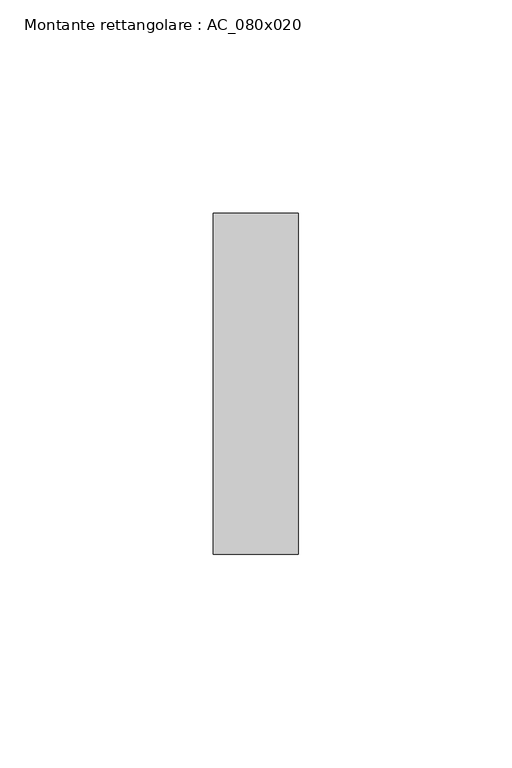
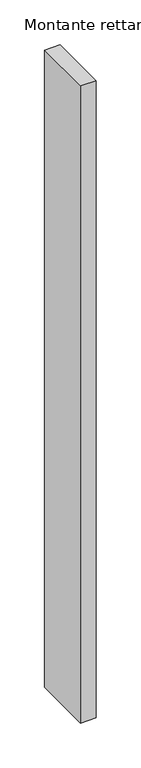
"""IFC4 building model written with IfcOpenShell, lengths in millimetres: member geometry, Montante rettangolare : AC_080x020."""

from ifc_helpers import new_model, si_unit, frame, origin, place, context, project, spatial, polyline, outline, extrude, source, transform, mapped, element, save


def montante_rettangolare_ac_080x020_d9112aa1(model_context):
    return source(origin(), model_context, "Body", "SweptSolid", [
        extrude(outline(polyline([(0.0, 40.0), (0.0, -40.0), (-20.0, -40.0), (-20.0, 40.0), (0.0, 40.0)])), frame((0.0, 0.0, -866.0), z_axis=(0.0, 0.0, 1.0), x_axis=(1.0, 0.0, 0.0)), (0.0, 0.0, 1.0), 866.0),
    ])


if __name__ == "__main__":
    model = new_model("IFC4")
    model_context = context("Model", 3, world=origin())
    ifc_project = project(units=[si_unit("LENGTHUNIT", "METRE", prefix="MILLI")], contexts=[model_context])
    site = spatial("IfcSite", under=ifc_project)
    building = spatial("IfcBuilding", under=site)
    placement = place(None, origin())
    montante_rettangolare_ac_080x020_shape = montante_rettangolare_ac_080x020_d9112aa1(model_context)
    element("IfcMember", 1, ObjectType="Montante rettangolare : AC_080x020", at=placement, inside=building, context=model_context, shape_type="MappedRepresentation", body=[
        mapped(montante_rettangolare_ac_080x020_shape, transform((0.0, 0.0, 0.0), x_axis=(1.0, 0.0, 0.0), y_axis=(0.0, 1.0, 0.0), z_axis=(0.0, 0.0, 1.0))),
    ])
    save(model, "model.ifc")
